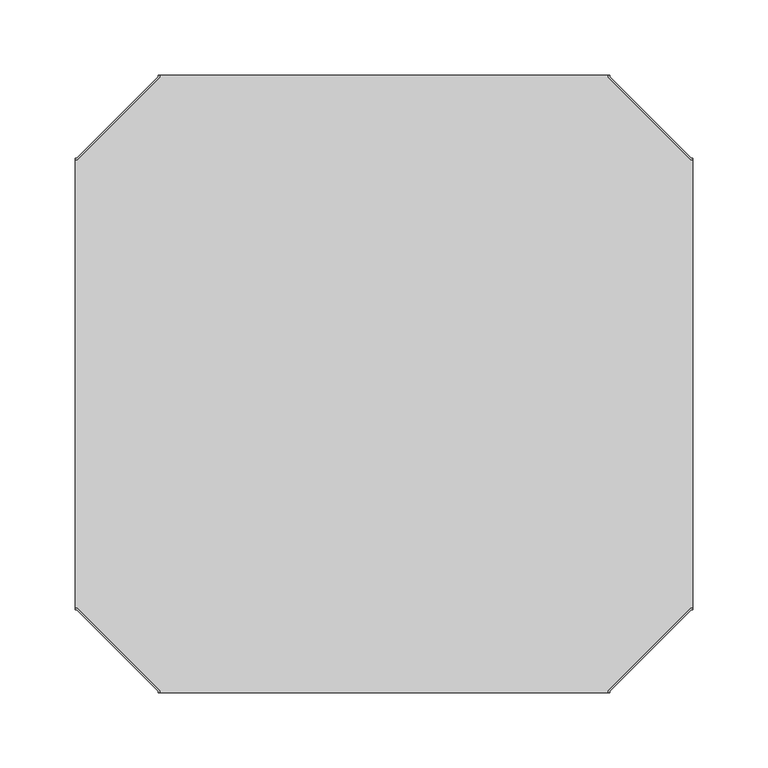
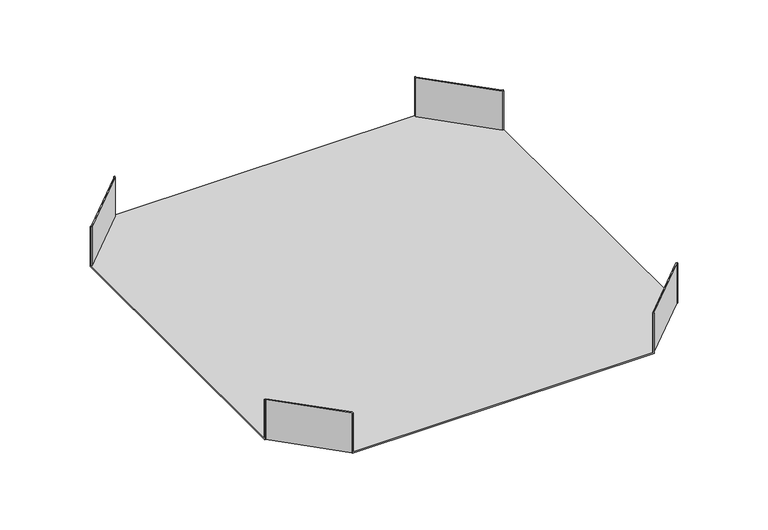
"""IFC4 building model written with IfcOpenShell, lengths in millimetres: cable carrier fitting geometry, BAKS_Horizontal cross over : CZKL_H42."""

import ifcopenshell
import ifcopenshell.guid

model = None  # the IFC model being written
_history = None  # IfcOwnerHistory: only IFC2X3 demands one
_inside = {}  # id of a spatial element -> (the spatial element, [elements in it])
_under = {}  # id of a project, library or spatial element -> (it, [spatial elements below it])
_declared = {}  # id of a project -> (the project, [libraries it declares])
_typed = {}  # id of a type object -> (the type object, [elements of that type])
_made_of = {}  # id of a material, layer set ... -> (it, [elements and type objects made of it])


def new_model(schema):
    """Start an empty IFC model of exactly this schema.

    Asked for "IFC4X3", IfcOpenShell would pick the latest addendum, in which some entities
    have other attributes; the version numbers below select the first issue.
    IFC2X3 requires an IfcOwnerHistory on every rooted entity: one is made here for all.
    """
    global model, _history
    if schema == "IFC4X3":
        model = ifcopenshell.file(schema_version=(4, 3, 0, 0))
    else:
        model = ifcopenshell.file(schema=schema)
    _inside.clear()
    _under.clear()
    _declared.clear()
    _typed.clear()
    _made_of.clear()
    _history = None
    if model.schema == "IFC2X3":
        org = make("IfcOrganization", Name="unknown")
        user = make(
            "IfcPersonAndOrganization",
            ThePerson=make("IfcPerson", FamilyName="unknown"),
            TheOrganization=org,
        )
        app = make(
            "IfcApplication",
            ApplicationDeveloper=org,
            Version="unknown",
            ApplicationFullName="unknown",
            ApplicationIdentifier="unknown",
        )
        _history = make(
            "IfcOwnerHistory",
            OwningUser=user,
            OwningApplication=app,
            ChangeAction="ADDED",
            CreationDate=0,
        )
    return model


def make(cls, **values):
    """One entity of the class cls with the attributes given. An attribute that is None is left unset."""
    return model.create_entity(
        cls, **{name: value for name, value in values.items() if value is not None}
    )


def rooted(cls, **values):
    """An entity with a GlobalId (a new one), such as an element, a storey or a relation."""
    return make(cls, GlobalId=ifcopenshell.guid.new(), OwnerHistory=_history, **values)


def si_unit(unit_type, name, prefix=None):
    """IfcSIUnit, for example si_unit("LENGTHUNIT", "METRE", prefix="MILLI")."""
    return make("IfcSIUnit", UnitType=unit_type, Prefix=prefix, Name=name)


def assignment(units):
    """IfcUnitAssignment: the units of a project."""
    return None if units is None else make("IfcUnitAssignment", Units=units)


def point(xyz):
    """IfcCartesianPoint."""
    return None if xyz is None else make("IfcCartesianPoint", Coordinates=xyz)


def direction(xyz):
    """IfcDirection."""
    return None if xyz is None else make("IfcDirection", DirectionRatios=xyz)


def frame(location, z_axis=None, x_axis=None):
    """IfcAxis2Placement3D, a coordinate frame: its origin and axes. An axis left out is left unset."""
    return make(
        "IfcAxis2Placement3D",
        Location=point(location),
        Axis=direction(z_axis),
        RefDirection=direction(x_axis),
    )


def origin():
    """The frame at (0, 0, 0) with its axes left unset."""
    return frame((0.0, 0.0, 0.0))


def place(relative_to, where):
    """IfcLocalPlacement: puts the frame where relative to a parent placement (None: the world)."""
    return make(
        "IfcLocalPlacement", PlacementRelTo=relative_to, RelativePlacement=where
    )


def context(
    kind, dimensions, precision=None, world=None, true_north=None, identifier=None
):
    """IfcGeometricRepresentationContext, for example the 3D "Model" context."""
    return make(
        "IfcGeometricRepresentationContext",
        ContextIdentifier=identifier,
        ContextType=kind,
        CoordinateSpaceDimension=dimensions,
        Precision=precision,
        WorldCoordinateSystem=world,
        TrueNorth=true_north,
    )


def project(units=None, contexts=None):
    """IfcProject with its units and contexts."""
    return rooted(
        "IfcProject",
        Name="project",
        RepresentationContexts=contexts,
        UnitsInContext=assignment(units),
    )


def spatial(cls, under=None, at=None, **own):
    """A site, building, storey or space (cls), placed at a placement, below another one or the project."""
    s = rooted(cls, ObjectPlacement=at, **own)
    if under is not None:
        _under.setdefault(under.id(), (under, []))[1].append(s)
    return s


def faces_of(points, faces, orient=None, outer=None):
    """IfcFace entities. A face is a list of loops; a loop is a list of indices into points, from 0.

    orient and outer hold one flag for each loop. By default every Orientation is true, the
    first loop of a face is its IfcFaceOuterBound and the others are IfcFaceBound.
    """
    made = []
    for i, loops in enumerate(faces):
        bounds = []
        for j, loop in enumerate(loops):
            is_outer = j == 0 if outer is None else outer[i][j]
            bounds.append(
                make(
                    "IfcFaceOuterBound" if is_outer else "IfcFaceBound",
                    Bound=make("IfcPolyLoop", Polygon=[points[k] for k in loop]),
                    Orientation=True if orient is None else orient[i][j],
                )
            )
        made.append(make("IfcFace", Bounds=bounds))
    return made


def faceted_brep(points, faces, orient=None, outer=None, voids=None):
    """IfcFacetedBrep: a solid bounded by flat faces; with voids (closed shells), ...WithVoids."""
    shared = [point(p) for p in points]
    hull = make("IfcClosedShell", CfsFaces=faces_of(shared, faces, orient, outer))
    if voids is None:
        return make("IfcFacetedBrep", Outer=hull)
    return make(
        "IfcFacetedBrepWithVoids",
        Outer=hull,
        Voids=[
            make(cls, CfsFaces=faces_of(shared, fs, o, b)) for cls, fs, o, b in voids
        ],
    )


def shape(context_of_items, identifier, shape_type, items):
    """IfcShapeRepresentation: the items that make up one representation, for example the "Body"."""
    return make(
        "IfcShapeRepresentation",
        ContextOfItems=context_of_items,
        RepresentationIdentifier=identifier,
        RepresentationType=shape_type,
        Items=items,
    )


def source(mapping_origin, context_of_items, identifier, shape_type, items):
    """IfcRepresentationMap: a shape defined once, which mapped items show again and again."""
    return make(
        "IfcRepresentationMap",
        MappingOrigin=mapping_origin,
        MappedRepresentation=shape(context_of_items, identifier, shape_type, items),
    )


def transform(
    local_origin,
    x_axis=None,
    y_axis=None,
    z_axis=None,
    scale=None,
    scale2=None,
    scale3=None,
    uniform=True,
):
    """IfcCartesianTransformationOperator3D, or its non-uniform kind. x_axis, y_axis, z_axis: its Axis1, 2, 3."""
    if uniform:
        return make(
            "IfcCartesianTransformationOperator3D",
            Axis1=direction(x_axis),
            Axis2=direction(y_axis),
            LocalOrigin=point(local_origin),
            Scale=scale,
            Axis3=direction(z_axis),
        )
    return make(
        "IfcCartesianTransformationOperator3DnonUniform",
        Axis1=direction(x_axis),
        Axis2=direction(y_axis),
        LocalOrigin=point(local_origin),
        Scale=scale,
        Axis3=direction(z_axis),
        Scale2=scale2,
        Scale3=scale3,
    )


def mapped(mapping_source, mapping_target):
    """IfcMappedItem: shows the shape of a source again, moved by a transform."""
    return make(
        "IfcMappedItem", MappingSource=mapping_source, MappingTarget=mapping_target
    )


def made_of(thing, what):
    """Note that an element or type object is made of a material, layer set ...; save() writes the relation."""
    if what is not None:
        _made_of.setdefault(what.id(), (what, []))[1].append(thing)
    return thing


def element(
    cls,
    number,
    at=None,
    inside=None,
    cuts=None,
    type_object=None,
    material=None,
    context=None,
    identifier="Body",
    shape_type=None,
    held_by="IfcProductDefinitionShape",
    body=None,
    shapes=None,
    **own,
):
    """One element of the class cls, such as IfcWall. Its Tag is "e" and its number.

    at: its placement. inside: the storey or other place that contains it. cuts: it is an
    opening in that element (IfcRelVoidsElement). A single representation is given by context,
    identifier, shape_type and body (its items); several are given by shapes. held_by: the class
    of the entity that holds the representations. save() writes the other relations.
    """
    e = rooted(cls, Tag="e%d" % number, ObjectPlacement=at, **own)
    if body is not None:
        shapes = [shape(context, identifier, shape_type, body)]
    if shapes is not None:
        e.Representation = make(held_by, Representations=shapes)
    if inside is not None:
        _inside.setdefault(inside.id(), (inside, []))[1].append(e)
    if cuts is not None:
        rooted(
            "IfcRelVoidsElement", RelatingBuildingElement=cuts, RelatedOpeningElement=e
        )
    if type_object is not None:
        _typed.setdefault(type_object.id(), (type_object, []))[1].append(e)
    return made_of(e, material)


def aggregate(whole, parts):
    """IfcRelAggregates: a whole, such as a stair, and the parts it consists of."""
    return rooted("IfcRelAggregates", RelatingObject=whole, RelatedObjects=parts)


def save(model, path):
    """Write the relations noted so far, then the file.

    IfcRelAggregates (storeys below a building ...), IfcRelContainedInSpatialStructure (elements
    in a storey), IfcRelDefinesByType, IfcRelAssociatesMaterial and IfcRelDeclares: one each for
    every whole, place, type object, material and project.
    """
    for whole, parts in _under.values():
        aggregate(whole, parts)
    for where, things in _inside.values():
        rooted(
            "IfcRelContainedInSpatialStructure",
            RelatedElements=things,
            RelatingStructure=where,
        )
    for kind, things in _typed.values():
        rooted("IfcRelDefinesByType", RelatedObjects=things, RelatingType=kind)
    for what, things in _made_of.values():
        rooted("IfcRelAssociatesMaterial", RelatedObjects=things, RelatingMaterial=what)
    for by, libraries in _declared.values():
        rooted("IfcRelDeclares", RelatingContext=by, RelatedDefinitions=libraries)
    model.write(path)


def cable_carrier_fitting_91cb0ece(model_context):
    return source(origin(), model_context, "Body", "Brep", [
        faceted_brep([(-149.0, -203.5857864, 21.0), (-203.5857864, -149.0, 21.0), (-205.0, -149.0, 21.0), (-205.0, -150.0, 21.0), (-204.0, -150.0, 21.0), (-150.0, -204.0, 21.0), (-150.0, -205.0, 21.0), (-149.0, -205.0, 21.0), (149.0, -203.5857864, 21.0), (149.0, -205.0, 21.0), (150.0, -205.0, 21.0), (150.0, -204.0, 21.0), (204.0, -150.0, 21.0), (205.0, -150.0, 21.0), (205.0, -149.0, 21.0), (203.5857864, -149.0, 21.0), (-149.0, 203.5857864, 21.0), (-149.0, 205.0, 21.0), (-150.0, 205.0, 21.0), (-150.0, 204.0, 21.0), (-204.0, 150.0, 21.0), (-205.0, 150.0, 21.0), (-205.0, 149.0, 21.0), (-203.5857864, 149.0, 21.0), (149.0, 203.5857864, 21.0), (203.5857864, 149.0, 21.0), (205.0, 149.0, 21.0), (205.0, 150.0, 21.0), (204.0, 150.0, 21.0), (150.0, 204.0, 21.0), (150.0, 205.0, 21.0), (149.0, 205.0, 21.0), (-150.0, -205.0, -21.0), (-150.0, -204.0, -21.0), (-204.0, -150.0, -21.0), (-205.0, -150.0, -21.0), (-205.0, 150.0, -21.0), (-204.0, 150.0, -21.0), (-150.0, 204.0, -21.0), (-150.0, 205.0, -21.0), (150.0, 205.0, -21.0), (150.0, 204.0, -21.0), (204.0, 150.0, -21.0), (205.0, 150.0, -21.0), (205.0, -150.0, -21.0), (204.0, -150.0, -21.0), (150.0, -204.0, -21.0), (150.0, -205.0, -21.0), (-149.0, -203.5857864, -20.0), (-203.5857864, -149.0, -20.0), (-205.0, -149.0, -20.0), (-205.0, 149.0, -20.0), (-204.0, -150.0, -20.0), (-150.0, -204.0, -20.0), (149.0, -205.0, -20.0), (-149.0, -205.0, -20.0), (150.0, -204.0, -20.0), (204.0, -150.0, -20.0), (205.0, 149.0, -20.0), (205.0, -149.0, -20.0), (203.5857864, -149.0, -20.0), (149.0, -203.5857864, -20.0), (-149.0, 203.5857864, -20.0), (-149.0, 205.0, -20.0), (149.0, 205.0, -20.0), (-150.0, 204.0, -20.0), (-204.0, 150.0, -20.0), (-203.5857864, 149.0, -20.0), (149.0, 203.5857864, -20.0), (203.5857864, 149.0, -20.0), (204.0, 150.0, -20.0), (150.0, 204.0, -20.0)], [[[0, 1, 2, 3, 4, 5, 6, 7]], [[8, 9, 10, 11, 12, 13, 14, 15]], [[16, 17, 18, 19, 20, 21, 22, 23]], [[24, 25, 26, 27, 28, 29, 30, 31]], [[32, 33, 34, 35, 36, 37, 38, 39, 40, 41, 42, 43, 44, 45, 46, 47]], [[1, 0, 48, 49]], [[2, 1, 49, 50]], [[3, 2, 50, 51, 22, 21, 36, 35]], [[4, 3, 35, 34, 52]], [[5, 4, 52, 34, 33, 53]], [[32, 6, 5, 53, 33]], [[7, 6, 32, 47, 10, 9, 54, 55]], [[0, 7, 55, 48]], [[12, 11, 56, 46, 45, 57]], [[44, 13, 12, 57, 45]], [[14, 13, 44, 43, 27, 26, 58, 59]], [[15, 14, 59, 60]], [[8, 15, 60, 61]], [[9, 8, 61, 54]], [[11, 10, 47, 46, 56]], [[17, 16, 62, 63]], [[18, 17, 63, 64, 31, 30, 40, 39]], [[19, 18, 39, 38, 65]], [[20, 19, 65, 38, 37, 66]], [[36, 21, 20, 66, 37]], [[23, 22, 51, 67]], [[16, 23, 67, 62]], [[25, 24, 68, 69]], [[26, 25, 69, 58]], [[28, 27, 43, 42, 70]], [[29, 28, 70, 42, 41, 71]], [[40, 30, 29, 71, 41]], [[24, 31, 64, 68]], [[55, 54, 61, 60, 59, 58, 69, 68, 64, 63, 62, 67, 51, 50, 49, 48]]]),
    ])


if __name__ == "__main__":
    model = new_model("IFC4")
    model_context = context("Model", 3, world=origin())
    ifc_project = project(units=[si_unit("LENGTHUNIT", "METRE", prefix="MILLI")], contexts=[model_context])
    site = spatial("IfcSite", under=ifc_project)
    building = spatial("IfcBuilding", under=site)
    placement = place(None, origin())
    cable_carrier_fitting_shape = cable_carrier_fitting_91cb0ece(model_context)
    element("IfcCableCarrierFitting", 1, ObjectType="BAKS_Horizontal cross over : CZKL_H42", at=placement, inside=building, context=model_context, shape_type="MappedRepresentation", body=[
        mapped(cable_carrier_fitting_shape, transform((0.0, 0.0, 0.0), x_axis=(1.0, 0.0, 0.0), y_axis=(0.0, 1.0, 0.0), z_axis=(0.0, 0.0, 1.0))),
    ])
    save(model, "model.ifc")
